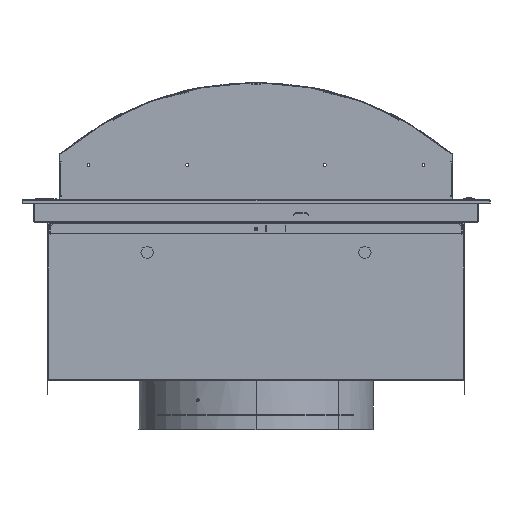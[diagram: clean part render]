
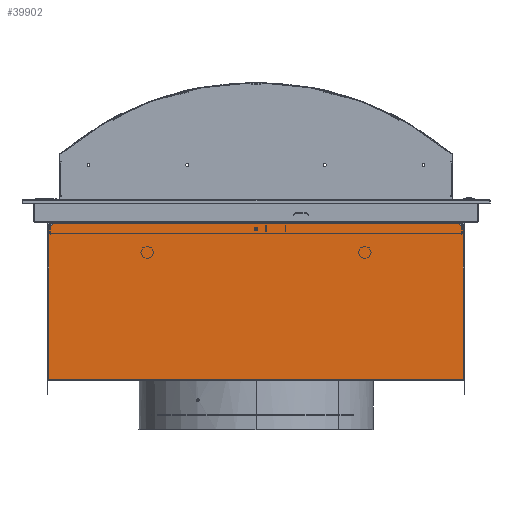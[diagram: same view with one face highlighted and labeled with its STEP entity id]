
A CAD part, left-side view. The second image highlights one B-rep face of the part: STEP entity #39902.
In plain terms, the highlighted planar face has unit normal (-1, 0, 0).
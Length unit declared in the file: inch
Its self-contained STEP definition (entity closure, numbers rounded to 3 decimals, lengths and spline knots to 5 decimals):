
#852 = VECTOR ( 'NONE', #66713, 39.37008 ) ;
#2158 = DIRECTION ( 'NONE',  ( 0., 0., -1. ) ) ;
#3614 = VERTEX_POINT ( 'NONE', #46383 ) ;
#3982 = CIRCLE ( 'NONE', #55374, 0.015 ) ;
#4322 = DIRECTION ( 'NONE',  ( 0., 0., -1. ) ) ;
#4931 = DIRECTION ( 'NONE',  ( -1., 0., 0. ) ) ;
#4981 = EDGE_CURVE ( 'NONE', #24976, #65714, #52060, .T. ) ;
#6048 = ORIENTED_EDGE ( 'NONE', *, *, #79335, .T. ) ;
#6424 = AXIS2_PLACEMENT_3D ( 'NONE', #59427, #10751, #4322 ) ;
#7789 = PLANE ( 'NONE',  #73572 ) ;
#8288 = VECTOR ( 'NONE', #55905, 39.37008 ) ;
#10751 = DIRECTION ( 'NONE',  ( 1., 0., 0. ) ) ;
#11564 = ORIENTED_EDGE ( 'NONE', *, *, #20709, .T. ) ;
#11667 = ORIENTED_EDGE ( 'NONE', *, *, #28258, .F. ) ;
#11913 = EDGE_CURVE ( 'NONE', #26030, #51201, #37403, .T. ) ;
#12571 = LINE ( 'NONE', #73353, #32432 ) ;
#13605 = ORIENTED_EDGE ( 'NONE', *, *, #59794, .T. ) ;
#14662 = CARTESIAN_POINT ( 'NONE',  ( -16.56225, 10.27664, -1.20739 ) ) ;
#15123 = CIRCLE ( 'NONE', #60079, 0.015 ) ;
#16167 = DIRECTION ( 'NONE',  ( 0., 0., -1. ) ) ;
#16662 = DIRECTION ( 'NONE',  ( 0., 0.707, -0.707 ) ) ;
#17264 = DIRECTION ( 'NONE',  ( 0., 0., -1. ) ) ;
#17820 = DIRECTION ( 'NONE',  ( 0., 0., -1. ) ) ;
#18217 = DIRECTION ( 'NONE',  ( 0., 0.707, 0.707 ) ) ;
#18718 = EDGE_CURVE ( 'NONE', #77276, #54344, #12571, .T. ) ;
#18732 = VERTEX_POINT ( 'NONE', #30673 ) ;
#19969 = VECTOR ( 'NONE', #16167, 39.37008 ) ;
#20128 = EDGE_CURVE ( 'NONE', #18732, #70302, #78618, .T. ) ;
#20709 = EDGE_CURVE ( 'NONE', #22136, #3614, #22386, .T. ) ;
#21009 = DIRECTION ( 'NONE',  ( 1., 0., 0. ) ) ;
#21777 = LINE ( 'NONE', #71316, #19969 ) ;
#22136 = VERTEX_POINT ( 'NONE', #64783 ) ;
#22386 = CIRCLE ( 'NONE', #44209, 0.015 ) ;
#22424 = CARTESIAN_POINT ( 'NONE',  ( -16.56225, -0.015, -1.203 ) ) ;
#23140 = CIRCLE ( 'NONE', #6424, 0.075 ) ;
#24136 = CARTESIAN_POINT ( 'NONE',  ( -16.56225, 10.56225, -9.137 ) ) ;
#24976 = VERTEX_POINT ( 'NONE', #22424 ) ;
#25036 = AXIS2_PLACEMENT_3D ( 'NONE', #38786, #25933, #50873 ) ;
#25933 = DIRECTION ( 'NONE',  ( 1., 0., 0. ) ) ;
#26030 = VERTEX_POINT ( 'NONE', #73021 ) ;
#27056 = DIRECTION ( 'NONE',  ( 0., 0., -1. ) ) ;
#27063 = VECTOR ( 'NONE', #52739, 39.37008 ) ;
#27845 = LINE ( 'NONE', #52359, #27063 ) ;
#28258 = EDGE_CURVE ( 'NONE', #38480, #3614, #53980, .T. ) ;
#28644 = ORIENTED_EDGE ( 'NONE', *, *, #59494, .T. ) ;
#28940 = AXIS2_PLACEMENT_3D ( 'NONE', #32288, #21009, #27056 ) ;
#30485 = CIRCLE ( 'NONE', #62581, 0.015 ) ;
#30567 = LINE ( 'NONE', #24136, #76206 ) ;
#30673 = CARTESIAN_POINT ( 'NONE',  ( -16.56225, 10.26604, -1.203 ) ) ;
#30848 = CARTESIAN_POINT ( 'NONE',  ( -16.56225, 10.52225, -9.137 ) ) ;
#30875 = CARTESIAN_POINT ( 'NONE',  ( -16.56225, -10.26604, -1.203 ) ) ;
#31087 = VECTOR ( 'NONE', #16662, 39.37008 ) ;
#31389 = CARTESIAN_POINT ( 'NONE',  ( -16.56225, 0.075, -1.5796 ) ) ;
#32163 = VERTEX_POINT ( 'NONE', #30875 ) ;
#32288 = CARTESIAN_POINT ( 'NONE',  ( -16.56225, 0., -1.091 ) ) ;
#32348 = CARTESIAN_POINT ( 'NONE',  ( -16.56225, 0., 0. ) ) ;
#32432 = VECTOR ( 'NONE', #18217, 39.37008 ) ;
#32602 = ORIENTED_EDGE ( 'NONE', *, *, #18718, .T. ) ;
#32900 = DIRECTION ( 'NONE',  ( -1., 0., 0. ) ) ;
#33491 = CARTESIAN_POINT ( 'NONE',  ( -16.56225, -10.52225, -9.137 ) ) ;
#33506 = EDGE_CURVE ( 'NONE', #54344, #32163, #15123, .T. ) ;
#33571 = ORIENTED_EDGE ( 'NONE', *, *, #4981, .T. ) ;
#35090 = CARTESIAN_POINT ( 'NONE',  ( -16.56225, 10.52225, -9.137 ) ) ;
#35914 = CARTESIAN_POINT ( 'NONE',  ( -16.56225, 10.26604, -1.218 ) ) ;
#36269 = ORIENTED_EDGE ( 'NONE', *, *, #67776, .T. ) ;
#37137 = VERTEX_POINT ( 'NONE', #14662 ) ;
#37403 = LINE ( 'NONE', #31389, #8288 ) ;
#38480 = VERTEX_POINT ( 'NONE', #30848 ) ;
#38786 = CARTESIAN_POINT ( 'NONE',  ( -16.56225, 0., -1.091 ) ) ;
#39902 = ADVANCED_FACE ( 'Face1', ( #68994, #62922 ), #7789, .F. ) ;
#40168 = ORIENTED_EDGE ( 'NONE', *, *, #33506, .T. ) ;
#40328 = ORIENTED_EDGE ( 'NONE', *, *, #62049, .T. ) ;
#40474 = EDGE_LOOP ( 'NONE', ( #45670, #33571, #28644, #43462, #40328, #36269, #11564, #11667, #60541, #13605, #63484, #32602, #40168 ) ) ;
#40528 = DIRECTION ( 'NONE',  ( 0., 0., -1. ) ) ;
#41383 = LINE ( 'NONE', #42175, #852 ) ;
#41814 = VERTEX_POINT ( 'NONE', #59942 ) ;
#42175 = CARTESIAN_POINT ( 'NONE',  ( -16.56225, 10.56225, -1.203 ) ) ;
#42365 = CARTESIAN_POINT ( 'NONE',  ( -16.56225, 0., -1.204 ) ) ;
#42379 = CARTESIAN_POINT ( 'NONE',  ( -16.56225, -10.52225, -9.137 ) ) ;
#42855 = ORIENTED_EDGE ( 'NONE', *, *, #11913, .T. ) ;
#43172 = DIRECTION ( 'NONE',  ( 0., 0., 1. ) ) ;
#43462 = ORIENTED_EDGE ( 'NONE', *, *, #20128, .F. ) ;
#44209 = AXIS2_PLACEMENT_3D ( 'NONE', #52562, #32900, #40528 ) ;
#45670 = ORIENTED_EDGE ( 'NONE', *, *, #75682, .F. ) ;
#46383 = CARTESIAN_POINT ( 'NONE',  ( -16.56225, 10.52225, -1.45921 ) ) ;
#46410 = EDGE_CURVE ( 'NONE', #56436, #38480, #30567, .T. ) ;
#47837 = CARTESIAN_POINT ( 'NONE',  ( -16.56225, -10.50725, -1.45921 ) ) ;
#49461 = CIRCLE ( 'NONE', #25036, 0.113 ) ;
#50486 = EDGE_LOOP ( 'NONE', ( #57694, #6048, #71146, #42855 ) ) ;
#50873 = DIRECTION ( 'NONE',  ( 0., 0., -1. ) ) ;
#51196 = CARTESIAN_POINT ( 'NONE',  ( -16.56225, 0.015, -1.203 ) ) ;
#51201 = VERTEX_POINT ( 'NONE', #77802 ) ;
#51850 = VECTOR ( 'NONE', #66146, 39.37008 ) ;
#52060 = CIRCLE ( 'NONE', #28940, 0.113 ) ;
#52359 = CARTESIAN_POINT ( 'NONE',  ( -16.56225, 0.075, -1.5046 ) ) ;
#52438 = CARTESIAN_POINT ( 'NONE',  ( -16.56225, -10.27664, -1.20739 ) ) ;
#52562 = CARTESIAN_POINT ( 'NONE',  ( -16.56225, 10.50725, -1.45921 ) ) ;
#52739 = DIRECTION ( 'NONE',  ( 0., 0., 1. ) ) ;
#53018 = EDGE_CURVE ( 'NONE', #51201, #41814, #27845, .T. ) ;
#53647 = CARTESIAN_POINT ( 'NONE',  ( -16.56225, 10.56225, -1.203 ) ) ;
#53980 = LINE ( 'NONE', #35090, #62910 ) ;
#54344 = VERTEX_POINT ( 'NONE', #52438 ) ;
#54441 = LINE ( 'NONE', #42379, #73997 ) ;
#55374 = AXIS2_PLACEMENT_3D ( 'NONE', #47837, #64761, #17264 ) ;
#55905 = DIRECTION ( 'NONE',  ( 0., 1., 0. ) ) ;
#56094 = VERTEX_POINT ( 'NONE', #76467 ) ;
#56436 = VERTEX_POINT ( 'NONE', #33491 ) ;
#57694 = ORIENTED_EDGE ( 'NONE', *, *, #53018, .T. ) ;
#58691 = DIRECTION ( 'NONE',  ( 0., 0., -1. ) ) ;
#59286 = LINE ( 'NONE', #70239, #31087 ) ;
#59427 = CARTESIAN_POINT ( 'NONE',  ( -16.56225, 0., -1.5046 ) ) ;
#59494 = EDGE_CURVE ( 'NONE', #65714, #70302, #49461, .T. ) ;
#59794 = EDGE_CURVE ( 'NONE', #56436, #70089, #54441, .T. ) ;
#59942 = CARTESIAN_POINT ( 'NONE',  ( -16.56225, 0.075, -1.5046 ) ) ;
#60016 = EDGE_CURVE ( 'NONE', #56094, #26030, #21777, .T. ) ;
#60079 = AXIS2_PLACEMENT_3D ( 'NONE', #71986, #66329, #58691 ) ;
#60541 = ORIENTED_EDGE ( 'NONE', *, *, #46410, .F. ) ;
#62049 = EDGE_CURVE ( 'NONE', #18732, #37137, #30485, .T. ) ;
#62581 = AXIS2_PLACEMENT_3D ( 'NONE', #35914, #4931, #17820 ) ;
#62910 = VECTOR ( 'NONE', #66087, 39.37008 ) ;
#62922 = FACE_OUTER_BOUND ( 'NONE', #40474, .T. ) ;
#63484 = ORIENTED_EDGE ( 'NONE', *, *, #67175, .T. ) ;
#64479 = CARTESIAN_POINT ( 'NONE',  ( -16.56225, -10.51786, -1.44861 ) ) ;
#64761 = DIRECTION ( 'NONE',  ( -1., 0., 0. ) ) ;
#64783 = CARTESIAN_POINT ( 'NONE',  ( -16.56225, 10.51786, -1.44861 ) ) ;
#65714 = VERTEX_POINT ( 'NONE', #42365 ) ;
#66087 = DIRECTION ( 'NONE',  ( 0., 0., 1. ) ) ;
#66146 = DIRECTION ( 'NONE',  ( 0., -1., 0. ) ) ;
#66329 = DIRECTION ( 'NONE',  ( -1., 0., 0. ) ) ;
#66713 = DIRECTION ( 'NONE',  ( 0., -1., 0. ) ) ;
#67175 = EDGE_CURVE ( 'NONE', #70089, #77276, #3982, .T. ) ;
#67776 = EDGE_CURVE ( 'NONE', #37137, #22136, #59286, .T. ) ;
#68994 = FACE_BOUND ( 'NONE', #50486, .T. ) ;
#69389 = DIRECTION ( 'NONE',  ( 1., 0., 0. ) ) ;
#70089 = VERTEX_POINT ( 'NONE', #73004 ) ;
#70239 = CARTESIAN_POINT ( 'NONE',  ( -16.56225, 10.27225, -1.203 ) ) ;
#70302 = VERTEX_POINT ( 'NONE', #51196 ) ;
#71146 = ORIENTED_EDGE ( 'NONE', *, *, #60016, .T. ) ;
#71316 = CARTESIAN_POINT ( 'NONE',  ( -16.56225, -0.075, -1.5796 ) ) ;
#71986 = CARTESIAN_POINT ( 'NONE',  ( -16.56225, -10.26604, -1.218 ) ) ;
#73004 = CARTESIAN_POINT ( 'NONE',  ( -16.56225, -10.52225, -1.45921 ) ) ;
#73021 = CARTESIAN_POINT ( 'NONE',  ( -16.56225, -0.075, -1.5796 ) ) ;
#73353 = CARTESIAN_POINT ( 'NONE',  ( -16.56225, -10.52225, -1.453 ) ) ;
#73572 = AXIS2_PLACEMENT_3D ( 'NONE', #32348, #69389, #2158 ) ;
#73997 = VECTOR ( 'NONE', #43172, 39.37008 ) ;
#75682 = EDGE_CURVE ( 'NONE', #24976, #32163, #41383, .T. ) ;
#76206 = VECTOR ( 'NONE', #78093, 39.37008 ) ;
#76467 = CARTESIAN_POINT ( 'NONE',  ( -16.56225, -0.075, -1.5046 ) ) ;
#77276 = VERTEX_POINT ( 'NONE', #64479 ) ;
#77802 = CARTESIAN_POINT ( 'NONE',  ( -16.56225, 0.075, -1.5796 ) ) ;
#78093 = DIRECTION ( 'NONE',  ( 0., 1., 0. ) ) ;
#78618 = LINE ( 'NONE', #53647, #51850 ) ;
#79335 = EDGE_CURVE ( 'NONE', #41814, #56094, #23140, .T. ) ;
